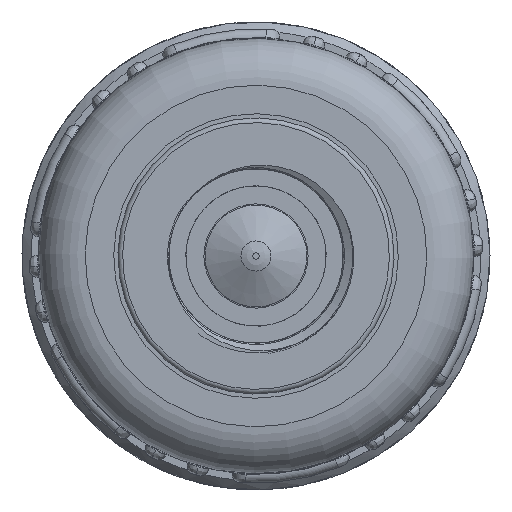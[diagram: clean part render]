
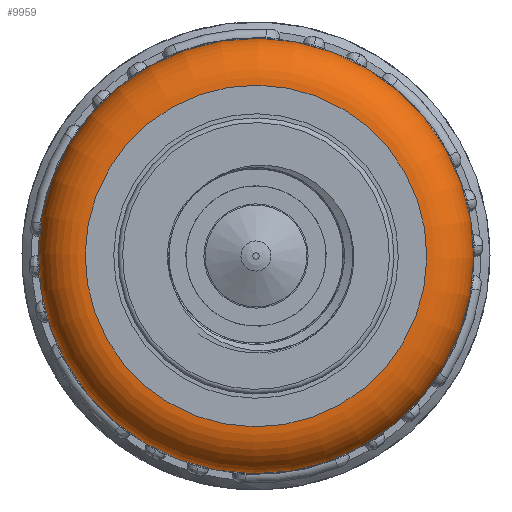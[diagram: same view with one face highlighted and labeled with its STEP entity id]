
A CAD part, front view. The second image highlights one B-rep face of the part: STEP entity #9959.
In plain terms, the highlighted toroidal (fillet/blend) face has major radius 18.25 mm and minor radius 5 mm.
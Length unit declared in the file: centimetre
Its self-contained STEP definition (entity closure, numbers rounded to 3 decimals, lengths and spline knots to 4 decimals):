
#2070=FACE_BOUND('',#3177,.T.);
#2560=FACE_OUTER_BOUND('',#3176,.T.);
#3176=EDGE_LOOP('',(#8255));
#3177=EDGE_LOOP('',(#8256));
#3718=CIRCLE('',#10771,1.825);
#3720=CIRCLE('',#10774,2.325);
#4517=VERTEX_POINT('',#66280);
#4519=VERTEX_POINT('',#66285);
#5832=EDGE_CURVE('',#4517,#4517,#3718,.T.);
#5834=EDGE_CURVE('',#4519,#4519,#3720,.T.);
#8255=ORIENTED_EDGE('',*,*,#5834,.F.);
#8256=ORIENTED_EDGE('',*,*,#5832,.T.);
#8929=TOROIDAL_SURFACE('',#10773,1.825,0.5);
#9959=ADVANCED_FACE('',(#2560,#2070),#8929,.T.);
#10771=AXIS2_PLACEMENT_3D('',#66281,#12764,#12765);
#10773=AXIS2_PLACEMENT_3D('',#66284,#12768,#12769);
#10774=AXIS2_PLACEMENT_3D('',#66286,#12770,#12771);
#12764=DIRECTION('center_axis',(0.,1.,0.));
#12765=DIRECTION('ref_axis',(-0.773,0.,-0.634));
#12768=DIRECTION('center_axis',(0.,1.,0.));
#12769=DIRECTION('ref_axis',(0.634,0.,-0.773));
#12770=DIRECTION('center_axis',(0.,1.,0.));
#12771=DIRECTION('ref_axis',(-0.773,0.,-0.634));
#66280=CARTESIAN_POINT('',(1.4111,-3.1101,1.1573));
#66281=CARTESIAN_POINT('Origin',(0.,-3.1101,
0.));
#66284=CARTESIAN_POINT('Origin',(0.,-2.6101,
0.));
#66285=CARTESIAN_POINT('',(1.7977,-2.6101,1.4744));
#66286=CARTESIAN_POINT('Origin',(0.,-2.6101,
0.));
